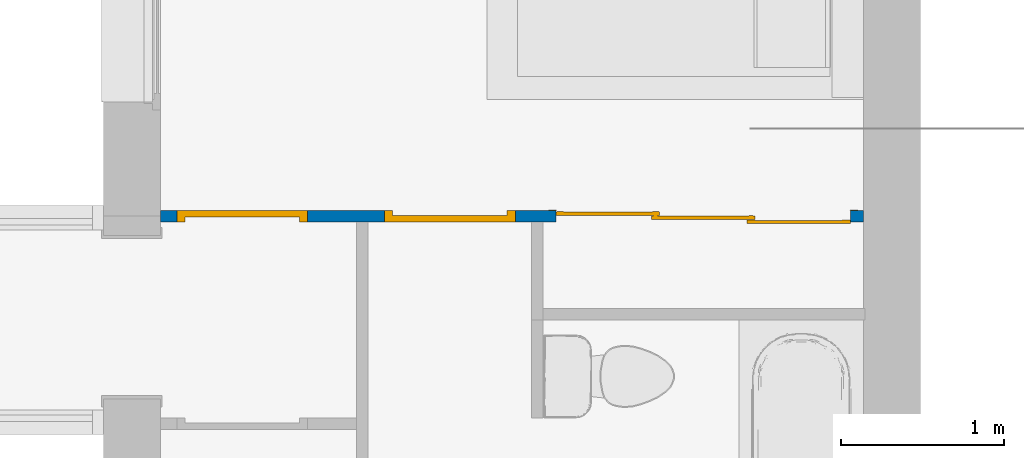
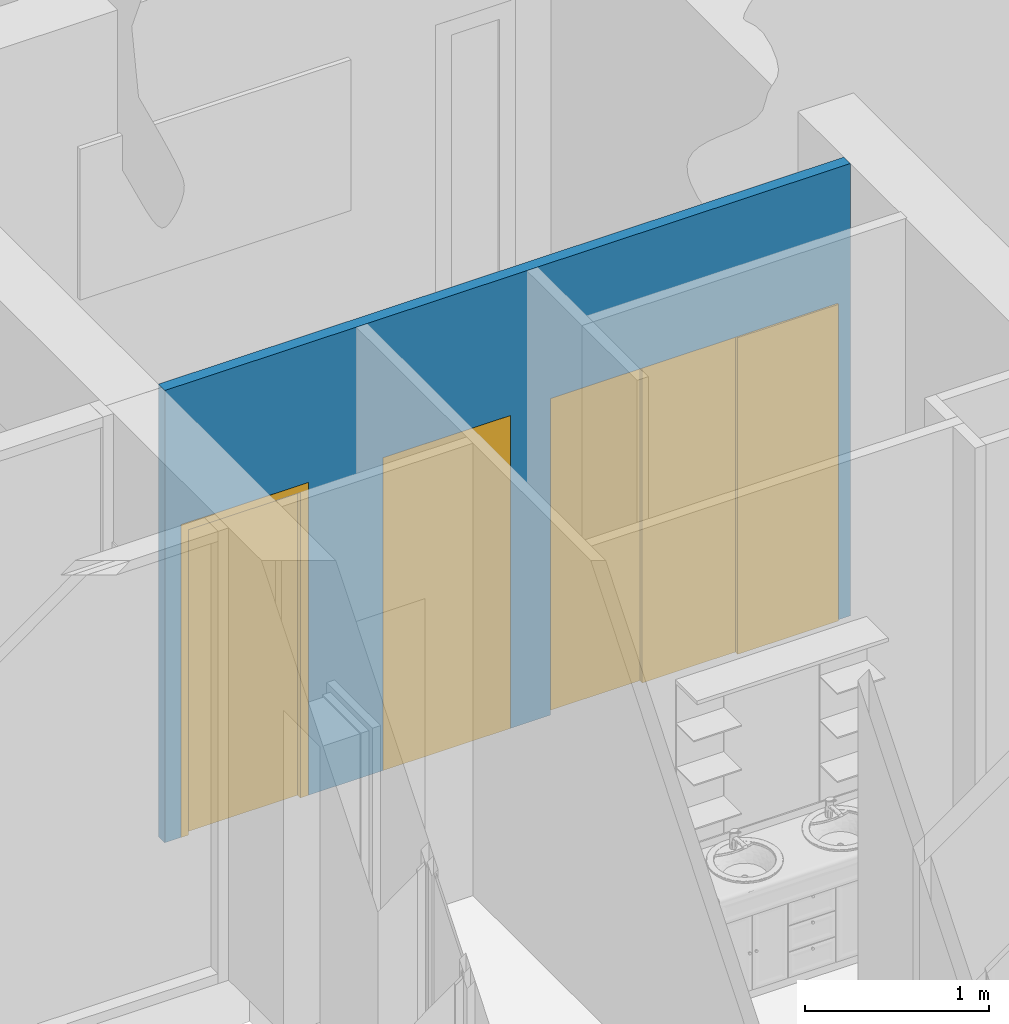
# One storey, part 14 of 40: 3 doors, 1 wall, 3 openings.
"""IFC2X3 building model written with IfcOpenShell, lengths in metres."""

from ifc_helpers import new_model, entity, si_unit, converted_unit, derived_unit, direction, frame, frame_2d, origin, origin_2d_with_axis, place, context, subcontext, project, spatial, polyline, circle_curve, parameter, trimmed, segment, composite_curve, rectangle, outline, extrude, faceted_brep, source, transform, mapped, material, material_list, layer, layer_set, layer_usage, type_object, type_shapes, element, fill, save


model = new_model("IFC2X3")

# Units and contexts
model_context = context("Model", 3, precision=1e-05, world=origin(), true_north=direction((6.12303176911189e-17, 1.0)))
body_context = subcontext(model_context, "Body", "Model", "MODEL_VIEW")
ifc_project = project(units=[si_unit("LENGTHUNIT", "METRE"), si_unit("AREAUNIT", "SQUARE_METRE"), si_unit("VOLUMEUNIT", "CUBIC_METRE"), converted_unit("PLANEANGLEUNIT", "DEGREE", entity("IfcRatioMeasure", 0.0174532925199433), si_unit("PLANEANGLEUNIT", "RADIAN"), dimensions=[0, 0, 0, 0, 0, 0, 0]), si_unit("MASSUNIT", "GRAM", prefix="KILO"), derived_unit("MASSDENSITYUNIT", [(si_unit("MASSUNIT", "GRAM", prefix="KILO"), 1), (si_unit("LENGTHUNIT", "METRE"), -3)]), si_unit("TIMEUNIT", "SECOND"), si_unit("FREQUENCYUNIT", "HERTZ"), si_unit("THERMODYNAMICTEMPERATUREUNIT", "DEGREE_CELSIUS"), derived_unit("THERMALTRANSMITTANCEUNIT", [(si_unit("MASSUNIT", "GRAM", prefix="KILO"), 1), (si_unit("THERMODYNAMICTEMPERATUREUNIT", "KELVIN"), -1), (si_unit("TIMEUNIT", "SECOND"), -3)]), derived_unit("VOLUMETRICFLOWRATEUNIT", [(si_unit("LENGTHUNIT", "METRE"), 3), (si_unit("TIMEUNIT", "SECOND"), -1)]), si_unit("ELECTRICCURRENTUNIT", "AMPERE"), si_unit("ELECTRICVOLTAGEUNIT", "VOLT"), si_unit("POWERUNIT", "WATT"), si_unit("FORCEUNIT", "NEWTON", prefix="KILO"), si_unit("ILLUMINANCEUNIT", "LUX"), si_unit("LUMINOUSFLUXUNIT", "LUMEN"), si_unit("LUMINOUSINTENSITYUNIT", "CANDELA"), derived_unit("USERDEFINED", [(si_unit("MASSUNIT", "GRAM", prefix="KILO"), -1), (si_unit("LENGTHUNIT", "METRE"), -2), (si_unit("TIMEUNIT", "SECOND"), 3), (si_unit("LUMINOUSFLUXUNIT", "LUMEN"), 1)]), derived_unit("LINEARVELOCITYUNIT", [(si_unit("LENGTHUNIT", "METRE"), 1), (si_unit("TIMEUNIT", "SECOND"), -1)]), si_unit("PRESSUREUNIT", "PASCAL"), derived_unit("USERDEFINED", [(si_unit("LENGTHUNIT", "METRE"), -2), (si_unit("MASSUNIT", "GRAM", prefix="KILO"), 1), (si_unit("TIMEUNIT", "SECOND"), -2)])], contexts=[model_context])

# Site, building, storey
site_placement = place(None, origin())
site = spatial("IfcSite", under=ifc_project, at=site_placement, Name="Surface", CompositionType="ELEMENT")
building_placement = place(site_placement, origin())
building = spatial("IfcBuilding", under=site, at=building_placement, CompositionType="ELEMENT")
storey_placement = place(building_placement, origin())
storey = spatial("IfcBuildingStorey", under=building, at=storey_placement, Name="RDC", CompositionType="ELEMENT", Elevation=-1.0941605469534e-13)

# Wall, openings, doors
ifc_material_1 = material(Name="Mur par défaut")
ifc_layer = layer(ifc_material_1, 0.07)
ifc_layer_set = layer_set([ifc_layer], Name="Mur de base:Générique - Int. 70 mm")
ifc_layer_usage = layer_usage(ifc_layer_set, "AXIS2", "NEGATIVE", 0.035)
wall_type = type_object("IfcWallType", Name="Mur de base:Générique - Int. 70 mm", PredefinedType="STANDARD", material=ifc_layer_set)
wall_placement = place(storey_placement, frame((12.1475111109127, 4.31201067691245, 0.0)))
wall = element("IfcWallStandardCase", 1, at=wall_placement, inside=storey, type_object=wall_type, material=ifc_layer_usage, Name="Mur de base:Générique - Int. 70 mm", ObjectType="Mur de base:Générique - Int. 70 mm", context=body_context, shape_type="SweptSolid", body=[
    extrude(rectangle(XDim=4.3, YDim=0.0700000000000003, at=frame_2d((2.15, 1.04083408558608e-16), x_axis=(-1.0, 0.0))), origin(), (0.0, 0.0, 1.0), 2.99999999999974),
])
opening_1_placement = place(wall_placement, frame((2.42, -0.0349999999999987, 0.0)))
opening_1 = element("IfcOpeningElement", 2, at=opening_1_placement, cuts=wall, Name="Placard coulissante - 3 panneaux:Placard coulissante - 3 panneaux:1", ObjectType="Opening", context=body_context, shape_type="SweptSolid", body=[
    extrude(rectangle(XDim=2.09999999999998, YDim=1.8, at=frame_2d((1.04999999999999, 0.9), x_axis=(1.0, 0.0))), frame((0.0, 0.0, 0.0), z_axis=(0.0, 1.0, 0.0), x_axis=(0.0, 0.0, 1.0)), (0.0, 0.0, 1.0), 0.07),
])
opening_2_placement = place(wall_placement, frame((0.0999999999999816, -0.0349999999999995, 0.0)))
opening_2 = element("IfcOpeningElement", 3, at=opening_2_placement, cuts=wall, Name="Int. Simple:PP (0.73m x 2.04m):1", ObjectType="Opening", context=body_context, shape_type="SweptSolid", body=[
    extrude(rectangle(XDim=2.075, YDim=0.799999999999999, at=frame_2d((1.0375, 0.4), x_axis=(1.0, 0.0))), frame((0.0, 0.0, 0.0), z_axis=(0.0, 1.0, 0.0), x_axis=(0.0, 0.0, 1.0)), (0.0, 0.0, 1.0), 0.07),
])
opening_3_placement = place(wall_placement, frame((2.16999999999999, 0.0349999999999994, 0.0)))
opening_3 = element("IfcOpeningElement", 4, at=opening_3_placement, cuts=wall, Name="Int. Simple:PP (0.73m x 2.04m):1", ObjectType="Opening", context=body_context, shape_type="SweptSolid", body=[
    extrude(rectangle(XDim=2.075, YDim=0.799999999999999, at=frame_2d((1.0375, 0.4), x_axis=(1.0, 0.0))), frame((0.0, 0.0, 0.0), z_axis=(0.0, -1.0, 0.0), x_axis=(0.0, 0.0, 1.0)), (0.0, 0.0, 1.0), 0.07),
])
ifc_material_2 = material(Name="Bois - Panneau de porte")
ifc_material_3 = material(Name="Bois - Cadre de porte")
ifc_material_list_1 = material_list([ifc_material_2, ifc_material_3])
ifc_material_list_2 = material_list([ifc_material_2, ifc_material_3])
door_style_1 = type_object("IfcDoorStyle", Name="PP (0.73m x 2.04m)", ConstructionType="NOTDEFINED", OperationType="SINGLE_SWING_RIGHT", ParameterTakesPrecedence=False, Sizeable=False, material=ifc_material_list_2)
shared_shape_1 = source(origin(), body_context, "Body", "Brep", [
    faceted_brep([(0.835000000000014, 0.0400000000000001, 2.04), (0.835000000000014, 0.0400000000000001, 0.0), (0.105000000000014, 0.0400000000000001, 0.0), (0.105000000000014, 0.0400000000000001, 2.04), (0.835000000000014, 0.0, 2.04), (0.105000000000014, 0.0, 2.04), (0.105000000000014, 0.0, 0.0), (0.835000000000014, 0.0, 0.0)], [[[0, 1, 2, 3]], [[4, 5, 6, 7]], [[3, 5, 4, 0]], [[2, 6, 5, 3]], [[1, 7, 6, 2]], [[0, 4, 7, 1]]]),
    faceted_brep([(0.870000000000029, 0.0, 0.0), (0.835000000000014, 0.0, 0.0), (0.835000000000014, 0.04, 0.0), (0.820000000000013, 0.04, 0.0), (0.820000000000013, 0.0699999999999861, 0.0), (0.870000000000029, 0.0699999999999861, 0.0), (0.870000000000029, 0.0699999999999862, 2.07500000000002), (0.870000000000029, 0.0, 2.07500000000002), (0.820000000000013, 0.0699999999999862, 2.025), (0.120000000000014, 0.0699999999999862, 2.025), (0.120000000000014, 0.0699999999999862, 0.0), (0.0699999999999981, 0.0699999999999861, 0.0), (0.0699999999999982, 0.0699999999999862, 2.07500000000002), (0.820000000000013, 0.04, 2.025), (0.835000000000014, 0.04, 2.04), (0.105000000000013, 0.04, 2.04), (0.105000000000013, 0.04, 0.0), (0.120000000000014, 0.04, 0.0), (0.120000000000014, 0.04, 2.025), (0.835000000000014, 0.0, 2.04), (0.0699999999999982, 0.0, 2.07500000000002), (0.0699999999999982, 0.0, 0.0), (0.105000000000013, 0.0, 0.0), (0.105000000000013, 0.0, 2.04)], [[[0, 1, 2, 3, 4, 5]], [[5, 6, 7, 0]], [[4, 8, 9, 10, 11, 12, 6, 5]], [[3, 13, 8, 4]], [[2, 14, 15, 16, 17, 18, 13, 3]], [[1, 19, 14, 2]], [[0, 7, 20, 21, 22, 23, 19, 1]], [[12, 11, 21, 20]], [[21, 11, 10, 17, 16, 22]], [[18, 17, 10, 9]], [[23, 22, 16, 15]], [[6, 12, 20, 7]], [[13, 18, 9, 8]], [[19, 23, 15, 14]]]),
])
type_shapes(door_style_1, [shared_shape_1])
door_1_placement = place(opening_3_placement, frame((-0.870000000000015, -0.0700000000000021, 0.0)))
door_1 = element("IfcDoor", 5, at=door_1_placement, inside=storey, type_object=door_style_1, material=ifc_material_list_1, Name="Int. Simple:PP (0.73m x 2.04m)", ObjectType="PP (0.73m x 2.04m)", OverallHeight=2.075, OverallWidth=0.8, context=body_context, shape_type="MappedRepresentation", body=[
    mapped(shared_shape_1, transform((0.0, 0.0, 0.0), scale=1.0)),
])
fill(opening_3, door_1)
ifc_material_4 = material(Name="Placard - Profil")
ifc_material_5 = material(Name="Placard - Encadrement")
ifc_material_6 = material(Name="Placard - Porte")
ifc_material_list_3 = material_list([ifc_material_4, ifc_material_5, ifc_material_6])
ifc_material_list_4 = material_list([ifc_material_4, ifc_material_5, ifc_material_6])
door_style_2 = type_object("IfcDoorStyle", Name="Placard coulissante - 3 panneaux", ConstructionType="NOTDEFINED", OperationType="SLIDING_TO_RIGHT", ParameterTakesPrecedence=False, Sizeable=False, material=ifc_material_list_4)
shared_shape_2 = source(origin(), body_context, "Body", "SweptSolid", [
    extrude(outline(composite_curve([segment(polyline([(-0.0250000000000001, -0.00100000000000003), (0.0249999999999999, -0.00100000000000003)]), True, "CONTINUOUS"), segment(polyline([(0.0249999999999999, -0.00100000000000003), (0.0249999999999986, 0.00100000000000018)]), True, "CONTINUOUS"), segment(trimmed(circle_curve(frame_2d((0.0, -0.212860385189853), x_axis=(-1.0, 0.0)), 0.215316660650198), [parameter(263.332459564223)], [parameter(276.667540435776)], True, "PARAMETER"), True, "CONTINUOUS"), segment(polyline([(-0.0250000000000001, 0.00100000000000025), (-0.0250000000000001, -0.00100000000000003)]), True, "CONTINUOUS")], self_intersect=False)), frame((1.775, 0.00899999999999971, 0.0), z_axis=(0.0, 0.0, 1.0), x_axis=(-1.0, 0.0, 0.0)), (0.0, 0.0, 1.0), 2.1),
    extrude(outline(composite_curve([segment(polyline([(-0.0250000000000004, -0.00100000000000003), (0.0249999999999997, -0.00100000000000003)]), True, "CONTINUOUS"), segment(polyline([(0.0249999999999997, -0.00100000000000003), (0.0249999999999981, 0.00100000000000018)]), True, "CONTINUOUS"), segment(trimmed(circle_curve(frame_2d((0.0, -0.212860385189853), x_axis=(-1.0, 0.0)), 0.215316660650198), [parameter(263.332459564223)], [parameter(276.667540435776)], True, "PARAMETER"), True, "CONTINUOUS"), segment(polyline([(-0.0250000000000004, 0.00100000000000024), (-0.0250000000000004, -0.00100000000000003)]), True, "CONTINUOUS")], self_intersect=False)), frame((1.19166666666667, 0.00900000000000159, 0.0), z_axis=(0.0, 0.0, 1.0), x_axis=(-1.0, 0.0, 0.0)), (0.0, 0.0, 1.0), 2.1),
    extrude(outline(composite_curve([segment(polyline([(-0.0250000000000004, -0.00100000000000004), (0.0249999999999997, -0.00100000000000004)]), True, "CONTINUOUS"), segment(polyline([(0.0249999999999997, -0.00100000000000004), (0.0249999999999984, 0.00100000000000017)]), True, "CONTINUOUS"), segment(trimmed(circle_curve(frame_2d((0.0, -0.212860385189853), x_axis=(-1.0, 0.0)), 0.215316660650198), [parameter(263.332459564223)], [parameter(276.667540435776)], True, "PARAMETER"), True, "CONTINUOUS"), segment(polyline([(-0.0250000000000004, 0.00100000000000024), (-0.0250000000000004, -0.00100000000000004)]), True, "CONTINUOUS")], self_intersect=False)), frame((1.19166666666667, 0.0340000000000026, 0.0), z_axis=(0.0, 0.0, 1.0), x_axis=(-1.0, 0.0, 0.0)), (0.0, 0.0, 1.0), 2.1),
    extrude(outline(composite_curve([segment(polyline([(-0.0250000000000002, -0.00100000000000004), (0.0249999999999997, -0.00100000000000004)]), True, "CONTINUOUS"), segment(polyline([(0.0249999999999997, -0.00100000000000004), (0.0249999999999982, 0.00100000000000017)]), True, "CONTINUOUS"), segment(trimmed(circle_curve(frame_2d((0.0, -0.212860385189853), x_axis=(-1.0, 0.0)), 0.215316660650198), [parameter(263.332459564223)], [parameter(276.667540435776)], True, "PARAMETER"), True, "CONTINUOUS"), segment(polyline([(-0.0250000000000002, 0.00100000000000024), (-0.0250000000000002, -0.00100000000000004)]), True, "CONTINUOUS")], self_intersect=False)), frame((0.608333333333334, 0.0340000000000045, 0.0), z_axis=(0.0, 0.0, 1.0), x_axis=(-1.0, 0.0, 0.0)), (0.0, 0.0, 1.0), 2.1),
    extrude(outline(composite_curve([segment(polyline([(-0.0250000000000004, -0.00100000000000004), (0.0249999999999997, -0.00100000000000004)]), True, "CONTINUOUS"), segment(polyline([(0.0249999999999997, -0.00100000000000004), (0.0249999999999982, 0.00100000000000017)]), True, "CONTINUOUS"), segment(trimmed(circle_curve(frame_2d((0.0, -0.212860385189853), x_axis=(-1.0, 0.0)), 0.215316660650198), [parameter(263.332459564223)], [parameter(276.667540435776)], True, "PARAMETER"), True, "CONTINUOUS"), segment(polyline([(-0.0250000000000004, 0.00100000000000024), (-0.0250000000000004, -0.00100000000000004)]), True, "CONTINUOUS")], self_intersect=False)), frame((0.608333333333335, 0.0590000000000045, 0.0), z_axis=(0.0, 0.0, 1.0), x_axis=(-1.0, 0.0, 0.0)), (0.0, 0.0, 1.0), 2.1),
    extrude(outline(composite_curve([segment(polyline([(-0.0250000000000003, -0.00100000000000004), (0.0249999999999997, -0.00100000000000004)]), True, "CONTINUOUS"), segment(polyline([(0.0249999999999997, -0.00100000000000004), (0.0249999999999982, 0.00100000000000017)]), True, "CONTINUOUS"), segment(trimmed(circle_curve(frame_2d((0.0, -0.212860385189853), x_axis=(-1.0, 0.0)), 0.215316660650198), [parameter(263.332459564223)], [parameter(276.667540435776)], True, "PARAMETER"), True, "CONTINUOUS"), segment(polyline([(-0.0250000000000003, 0.00100000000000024), (-0.0250000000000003, -0.00100000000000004)]), True, "CONTINUOUS")], self_intersect=False)), frame((0.0250000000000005, 0.0590000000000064, 0.0), z_axis=(0.0, 0.0, 1.0), x_axis=(-1.0, 0.0, 0.0)), (0.0, 0.0, 1.0), 2.1),
    extrude(outline(polyline([(-1.06149999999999, -0.948), (1.08649999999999, -0.948), (1.08649999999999, 0.948), (-1.06149999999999, 0.948), (-1.06149999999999, 0.898), (1.03649999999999, 0.898), (1.03649999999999, -0.898), (-1.06149999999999, -0.898), (-1.06149999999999, -0.948)])), frame((0.9, -0.003, 1.06149999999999), z_axis=(0.0, 1.0, 0.0), x_axis=(0.0, 0.0, 1.0)), (0.0, 0.0, 1.0), 0.003),
    extrude(rectangle(XDim=0.020000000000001, YDim=0.633333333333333, at=frame_2d((0.0, 8.32667268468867e-17), x_axis=(1.0, 0.0))), frame((1.48333333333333, 0.0200000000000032, 0.0), z_axis=(0.0, 0.0, 1.0), x_axis=(0.0, 1.0, 0.0)), (0.0, 0.0, 1.0), 2.1),
    extrude(rectangle(XDim=0.633333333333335, YDim=0.02, at=origin_2d_with_axis()), frame((0.316666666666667, 0.0700000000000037, 0.0), z_axis=(0.0, 0.0, 1.0), x_axis=(-1.0, 0.0, 0.0)), (0.0, 0.0, 1.0), 2.1),
    extrude(rectangle(XDim=0.02, YDim=0.633333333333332, at=origin_2d_with_axis()), frame((0.9, 0.0450000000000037, 0.0), z_axis=(0.0, 0.0, 1.0), x_axis=(0.0, 1.0, 0.0)), (0.0, 0.0, 1.0), 2.1),
])
type_shapes(door_style_2, [shared_shape_2])
door_2_placement = place(opening_1_placement, frame((1.8, 0.0699999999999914, 0.0), z_axis=(0.0, 0.0, 1.0), x_axis=(-1.0, 0.0, 0.0)))
door_2 = element("IfcDoor", 6, at=door_2_placement, inside=storey, type_object=door_style_2, material=ifc_material_list_3, Name="Placard coulissante - 3 panneaux:Placard coulissante - 3 panneaux", ObjectType="Placard coulissante - 3 panneaux", OverallHeight=2.09999999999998, OverallWidth=1.8, context=body_context, shape_type="MappedRepresentation", body=[
    mapped(shared_shape_2, transform((0.0, 0.0, 0.0), scale=1.0)),
])
fill(opening_1, door_2)
ifc_material_list_5 = material_list([ifc_material_2, ifc_material_3])
ifc_material_list_6 = material_list([ifc_material_2, ifc_material_3])
door_style_3 = type_object("IfcDoorStyle", Name="PP (0.73m x 2.04m)", ConstructionType="NOTDEFINED", OperationType="SINGLE_SWING_LEFT", ParameterTakesPrecedence=False, Sizeable=False, material=ifc_material_list_6)
shared_shape_3 = source(origin(), body_context, "Body", "Brep", [
    faceted_brep([(0.0349999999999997, 0.0400000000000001, 2.04), (0.765, 0.0400000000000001, 2.04), (0.765, 0.0400000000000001, 0.0), (0.0349999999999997, 0.0400000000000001, 0.0), (0.0349999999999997, 0.0, 2.04), (0.0349999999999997, 0.0, 0.0), (0.765, 0.0, 0.0), (0.765, 0.0, 2.04)], [[[0, 1, 2, 3]], [[4, 5, 6, 7]], [[1, 0, 4, 7]], [[2, 1, 7, 6]], [[3, 2, 6, 5]], [[0, 3, 5, 4]]]),
    faceted_brep([(0.0, 0.0, 0.0), (0.0, 0.0699999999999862, 0.0), (0.0500000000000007, 0.0699999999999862, 0.0), (0.0500000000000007, 0.04, 0.0), (0.0349999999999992, 0.04, 0.0), (0.0349999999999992, 0.0, 0.0), (0.0, 0.0, 2.07500000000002), (0.0, 0.0699999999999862, 2.07500000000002), (0.800000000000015, 0.0699999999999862, 2.07500000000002), (0.800000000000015, 0.0699999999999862, 0.0), (0.749999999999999, 0.0699999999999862, 0.0), (0.749999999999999, 0.0699999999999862, 2.025), (0.0500000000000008, 0.0699999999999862, 2.025), (0.0500000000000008, 0.04, 2.025), (0.749999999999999, 0.04, 2.025), (0.749999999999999, 0.04, 0.0), (0.765000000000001, 0.04, 0.0), (0.765000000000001, 0.04, 2.04), (0.0349999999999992, 0.04, 2.04), (0.0349999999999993, 0.0, 2.04), (0.765000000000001, 0.0, 2.04), (0.765000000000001, 0.0, 0.0), (0.800000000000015, 0.0, 0.0), (0.800000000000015, 0.0, 2.07500000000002)], [[[0, 1, 2, 3, 4, 5]], [[1, 0, 6, 7]], [[2, 1, 7, 8, 9, 10, 11, 12]], [[3, 2, 12, 13]], [[4, 3, 13, 14, 15, 16, 17, 18]], [[5, 4, 18, 19]], [[0, 5, 19, 20, 21, 22, 23, 6]], [[8, 23, 22, 9]], [[22, 21, 16, 15, 10, 9]], [[14, 11, 10, 15]], [[20, 17, 16, 21]], [[7, 6, 23, 8]], [[13, 12, 11, 14]], [[19, 18, 17, 20]]]),
])
type_shapes(door_style_3, [shared_shape_3])
door_3_placement = place(opening_2_placement, frame((0.799999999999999, 0.0699999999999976, 0.0), z_axis=(0.0, 0.0, 1.0), x_axis=(-1.0, 0.0, 0.0)))
door_3 = element("IfcDoor", 7, at=door_3_placement, inside=storey, type_object=door_style_3, material=ifc_material_list_5, Name="Int. Simple:PP (0.73m x 2.04m)", ObjectType="PP (0.73m x 2.04m)", OverallHeight=2.075, OverallWidth=0.8, context=body_context, shape_type="MappedRepresentation", body=[
    mapped(shared_shape_3, transform((0.0, 0.0, 0.0), scale=1.0)),
])
fill(opening_2, door_3)

save(model, "model.ifc")
